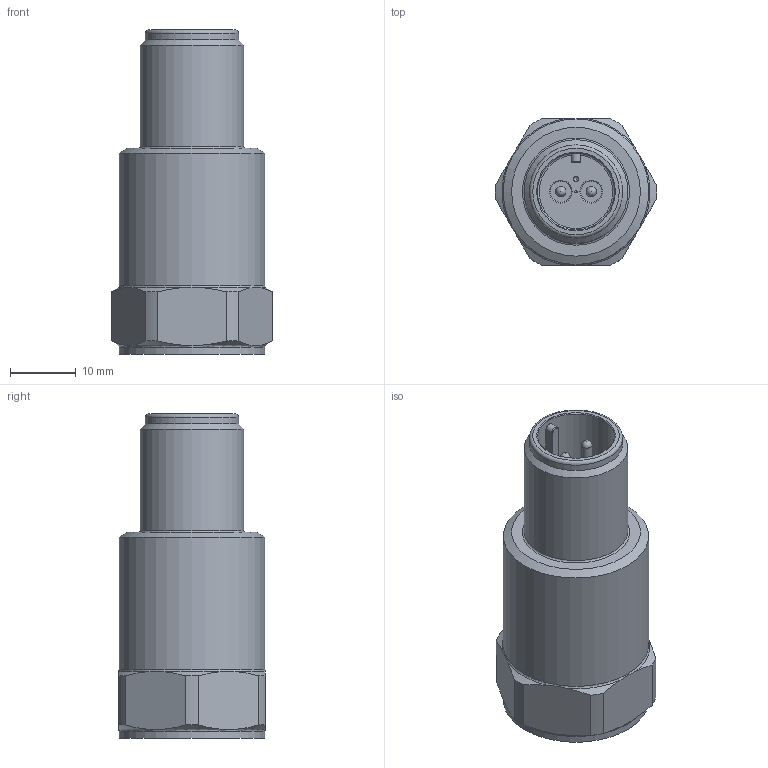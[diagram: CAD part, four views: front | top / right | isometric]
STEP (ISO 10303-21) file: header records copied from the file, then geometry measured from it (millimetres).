
FILE_DESCRIPTION(/* description */ (''),/* implementation_level */ '2;1');
FILE_NAME(/* name */ 'C:\Users\jfriend\Desktop\----Step files\Meredith Christman\601A02\601A02.stp',/* time_stamp */ '2019-12-11T10:26:14-05:00',/* author */ ('jfriend'),/* organization */ (''),/* preprocessor_version */ 'ST-DEVELOPER v17',/* originating_system */ 'Autodesk Inventor 2019',/* authorisation */ '');
FILE_SCHEMA (('AUTOMOTIVE_DESIGN { 1 0 10303 214 3 1 1 }'));
Length unit declared in the file: inch
Products named in the file (1): 601A02 
Bounding box: 24.58 x 22.23 x 49.2 mm (x, y, z)
Volume: 14063.9 mm3; surface area: 4644.2 mm2
Topology: 1 solids, 1 shells, 70 faces, 193 edges, 133 vertices
Faces by surface type: cylinder 24, cone 19, plane 18, torus 7, sphere 2
Full cylindrical faces by diameter (mm): 0.762 x1, 1.016 x2, 1.549 x2, 3.188 x2, 5.359 x1, 6.731 x1, 11.684 x1, 14.148 x1, 15.748 x1, 22.098 x2
Entity records: 2496 total; most frequent: CARTESIAN_POINT 578, DIRECTION 393, ORIENTED_EDGE 378, EDGE_CURVE 189, AXIS2_PLACEMENT_3D 175, VERTEX_POINT 133, CIRCLE 104, EDGE_LOOP 84
